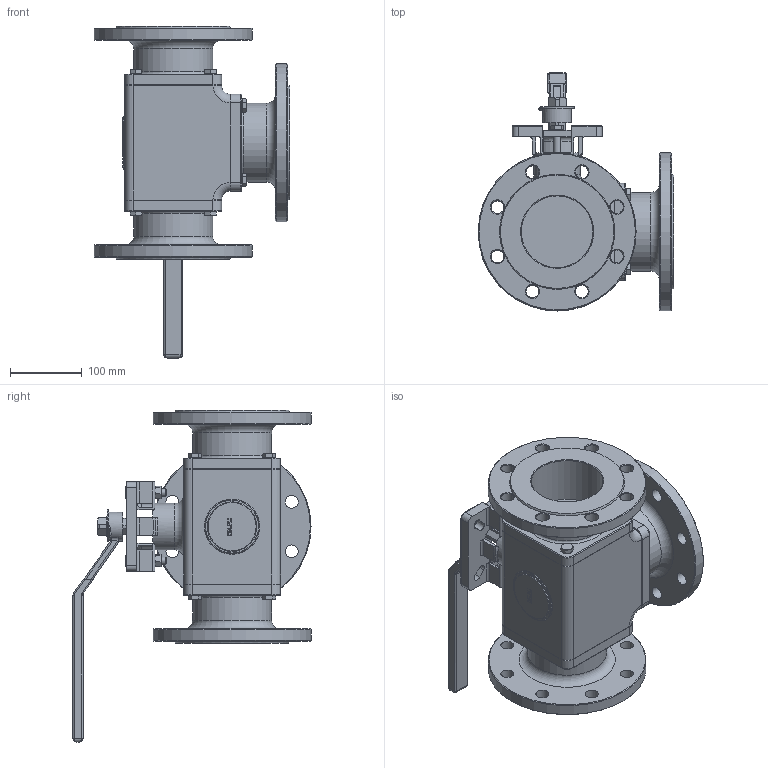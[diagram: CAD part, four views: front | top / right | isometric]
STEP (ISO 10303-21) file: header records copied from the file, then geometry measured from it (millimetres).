
FILE_DESCRIPTION(('STEP AP242'), '1');
FILE_NAME('BV3232P(4pc)-FP-3WL-F-ISO-H Êðàí øàðîâîé DN.ru Äó100 Ðó16', '', ('UNSPECIFIED'), ('UNSPECIFIED'), 'C3D Converter', 'C3D Toolkit', '');
FILE_SCHEMA(('AP242_MANAGED_MODEL_BASED_3D_ENGINEERING_MIM_LF { 1 0 10303 442 1 1 4 }'));
Length unit declared in the file: millimetre
Products named in the file (1): BV3232P(4pc)-FP-3WL-F-ISO-H
Bounding box: 272.5 x 331.62 x 462.5 mm (x, y, z)
Volume: 6276670.4 mm3; surface area: 683095.5 mm2
Topology: 1 solids, 16 shells, 965 faces, 2394 edges, 1488 vertices
Faces by surface type: plane 486, cylinder 221, cone 158, bspline 62, torus 38
Full cylindrical faces by diameter (mm): 1.336 x1, 1.364 x1, 2 x1, 10 x28, 11 x14, 16 x14, 18 x24, 30 x3, 40 x1, 65 x1, 69 x1, 100 x3, 110 x3, 220 x3
Entity records: 46484 total; most frequent: CARTESIAN_POINT 19999, ORIENTED_EDGE 4460, DIRECTION 4388, EDGE_CURVE 2230, AXIS2_PLACEMENT_3D 1678, VERTEX_POINT 1488, EDGE_LOOP 1272, FACE_BOUND 1049
